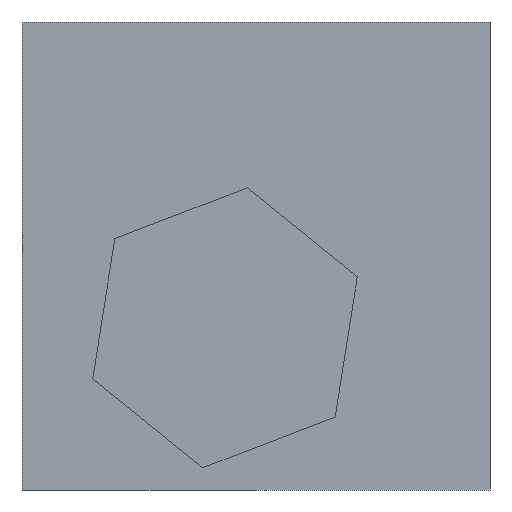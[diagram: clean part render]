
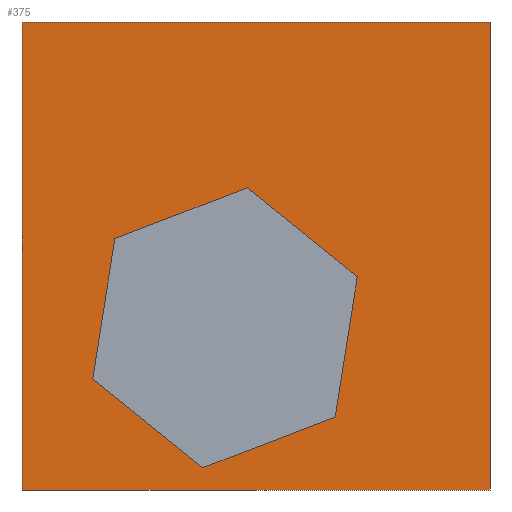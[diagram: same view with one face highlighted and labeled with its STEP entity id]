
A CAD part, left-side view. The second image highlights one B-rep face of the part: STEP entity #375.
In plain terms, the highlighted planar face has unit normal (-1, 0, 0).
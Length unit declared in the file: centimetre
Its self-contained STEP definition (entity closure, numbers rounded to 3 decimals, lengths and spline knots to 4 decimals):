
#1 = ORIENTED_EDGE ( 'NONE', *, *, #166, .F. ) ;
#8 = EDGE_CURVE ( 'NONE', #485, #405, #191, .T. ) ;
#10 = DIRECTION ( 'NONE',  ( 0., 0., -1. ) ) ;
#18 = CARTESIAN_POINT ( 'NONE',  ( 0., 1000., 1000. ) ) ;
#24 = DIRECTION ( 'NONE',  ( 0., -1., 0. ) ) ;
#35 = EDGE_LOOP ( 'NONE', ( #265, #484, #473, #1, #207, #106 ) ) ;
#37 = LINE ( 'NONE', #61, #187 ) ;
#41 = ORIENTED_EDGE ( 'NONE', *, *, #482, .T. ) ;
#42 = CARTESIAN_POINT ( 'NONE',  ( 0., 1000., 1000. ) ) ;
#49 = EDGE_CURVE ( 'NONE', #314, #377, #221, .T. ) ;
#57 = CARTESIAN_POINT ( 'NONE',  ( 0., 801.6107, 536.9633 ) ) ;
#60 = CARTESIAN_POINT ( 'NONE',  ( 0., 613.3297, 47.5193 ) ) ;
#61 = CARTESIAN_POINT ( 'NONE',  ( 0., 1000., 0. ) ) ;
#67 = VECTOR ( 'NONE', #212, 100. ) ;
#76 = VERTEX_POINT ( 'NONE', #315 ) ;
#79 = VERTEX_POINT ( 'NONE', #425 ) ;
#80 = VECTOR ( 'NONE', #24, 100. ) ;
#83 = CARTESIAN_POINT ( 'NONE',  ( 0., 848.7605, 237.8892 ) ) ;
#85 = CARTESIAN_POINT ( 'NONE',  ( 0., 613.3297, 47.5193 ) ) ;
#92 = VECTOR ( 'NONE', #10, 100. ) ;
#101 = CARTESIAN_POINT ( 'NONE',  ( 0., 283.5992, 455.2974 ) ) ;
#103 = DIRECTION ( 'NONE',  ( 0., -0.778, -0.629 ) ) ;
#106 = ORIENTED_EDGE ( 'NONE', *, *, #8, .F. ) ;
#121 = LINE ( 'NONE', #281, #454 ) ;
#131 = ORIENTED_EDGE ( 'NONE', *, *, #270, .F. ) ;
#133 = EDGE_LOOP ( 'NONE', ( #180, #215, #131, #41 ) ) ;
#141 = VERTEX_POINT ( 'NONE', #151 ) ;
#143 = LINE ( 'NONE', #147, #80 ) ;
#147 = CARTESIAN_POINT ( 'NONE',  ( 0., 1000., 1000. ) ) ;
#151 = CARTESIAN_POINT ( 'NONE',  ( 0., 0., 0. ) ) ;
#158 = VERTEX_POINT ( 'NONE', #352 ) ;
#166 = EDGE_CURVE ( 'NONE', #158, #353, #226, .T. ) ;
#175 = DIRECTION ( 'NONE',  ( 0., -0.933, 0.359 ) ) ;
#176 = EDGE_CURVE ( 'NONE', #79, #141, #37, .T. ) ;
#180 = ORIENTED_EDGE ( 'NONE', *, *, #176, .T. ) ;
#187 = VECTOR ( 'NONE', #217, 100. ) ;
#191 = LINE ( 'NONE', #347, #470 ) ;
#202 = LINE ( 'NONE', #437, #301 ) ;
#205 = CARTESIAN_POINT ( 'NONE',  ( 0., 0., 1000. ) ) ;
#207 = ORIENTED_EDGE ( 'NONE', *, *, #283, .F. ) ;
#212 = DIRECTION ( 'NONE',  ( 0., 0.156, -0.988 ) ) ;
#214 = FACE_BOUND ( 'NONE', #35, .T. ) ;
#215 = ORIENTED_EDGE ( 'NONE', *, *, #432, .F. ) ;
#216 = LINE ( 'NONE', #57, #67 ) ;
#217 = DIRECTION ( 'NONE',  ( 0., -1., 0. ) ) ;
#221 = LINE ( 'NONE', #498, #366 ) ;
#226 = LINE ( 'NONE', #497, #499 ) ;
#265 = ORIENTED_EDGE ( 'NONE', *, *, #305, .F. ) ;
#270 = EDGE_CURVE ( 'NONE', #440, #76, #143, .T. ) ;
#281 = CARTESIAN_POINT ( 'NONE',  ( 0., 283.5992, 455.2974 ) ) ;
#283 = EDGE_CURVE ( 'NONE', #405, #158, #378, .T. ) ;
#301 = VECTOR ( 'NONE', #483, 100. ) ;
#305 = EDGE_CURVE ( 'NONE', #377, #485, #216, .T. ) ;
#314 = VERTEX_POINT ( 'NONE', #336 ) ;
#315 = CARTESIAN_POINT ( 'NONE',  ( 0., 0., 1000. ) ) ;
#336 = CARTESIAN_POINT ( 'NONE',  ( 0., 519.0301, 645.6674 ) ) ;
#340 = PLANE ( 'NONE',  #361 ) ;
#347 = CARTESIAN_POINT ( 'NONE',  ( 0., 848.7605, 237.8892 ) ) ;
#352 = CARTESIAN_POINT ( 'NONE',  ( 0., 330.749, 156.2234 ) ) ;
#353 = VERTEX_POINT ( 'NONE', #101 ) ;
#361 = AXIS2_PLACEMENT_3D ( 'NONE', #18, #453, #415 ) ;
#366 = VECTOR ( 'NONE', #419, 100. ) ;
#371 = VECTOR ( 'NONE', #175, 100. ) ;
#374 = FACE_OUTER_BOUND ( 'NONE', #133, .T. ) ;
#375 = ADVANCED_FACE ( 'NONE', ( #214, #374 ), #340, .F. ) ;
#377 = VERTEX_POINT ( 'NONE', #475 ) ;
#378 = LINE ( 'NONE', #60, #371 ) ;
#394 = DIRECTION ( 'NONE',  ( 0., -0.156, 0.988 ) ) ;
#404 = DIRECTION ( 'NONE',  ( 0., 0.778, 0.629 ) ) ;
#405 = VERTEX_POINT ( 'NONE', #85 ) ;
#413 = EDGE_CURVE ( 'NONE', #353, #314, #121, .T. ) ;
#415 = DIRECTION ( 'NONE',  ( 0., 0., -1. ) ) ;
#419 = DIRECTION ( 'NONE',  ( 0., 0.933, -0.359 ) ) ;
#425 = CARTESIAN_POINT ( 'NONE',  ( 0., 1000., 0. ) ) ;
#432 = EDGE_CURVE ( 'NONE', #76, #141, #439, .T. ) ;
#437 = CARTESIAN_POINT ( 'NONE',  ( 0., 1000., 1000. ) ) ;
#439 = LINE ( 'NONE', #205, #92 ) ;
#440 = VERTEX_POINT ( 'NONE', #42 ) ;
#453 = DIRECTION ( 'NONE',  ( 1., 0., 0. ) ) ;
#454 = VECTOR ( 'NONE', #404, 100. ) ;
#470 = VECTOR ( 'NONE', #103, 100. ) ;
#473 = ORIENTED_EDGE ( 'NONE', *, *, #413, .F. ) ;
#475 = CARTESIAN_POINT ( 'NONE',  ( 0., 801.6107, 536.9633 ) ) ;
#482 = EDGE_CURVE ( 'NONE', #440, #79, #202, .T. ) ;
#483 = DIRECTION ( 'NONE',  ( 0., 0., -1. ) ) ;
#484 = ORIENTED_EDGE ( 'NONE', *, *, #49, .F. ) ;
#485 = VERTEX_POINT ( 'NONE', #83 ) ;
#497 = CARTESIAN_POINT ( 'NONE',  ( 0., 330.749, 156.2234 ) ) ;
#498 = CARTESIAN_POINT ( 'NONE',  ( 0., 519.0301, 645.6674 ) ) ;
#499 = VECTOR ( 'NONE', #394, 100. ) ;
